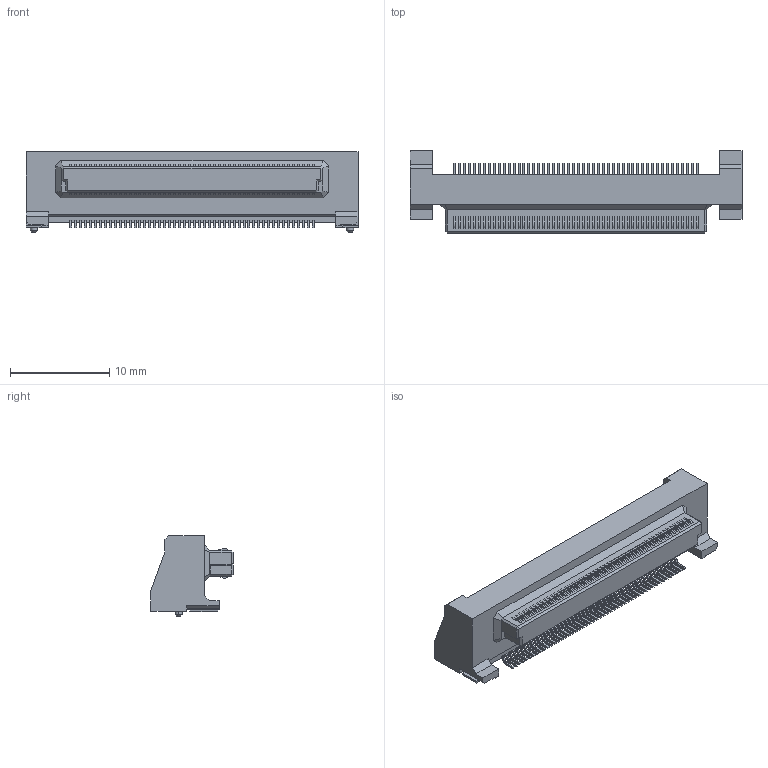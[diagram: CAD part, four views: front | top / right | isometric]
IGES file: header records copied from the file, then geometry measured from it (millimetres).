
Start section: Elysium IGES Interface
Global section: file name: C:\Users\1354\Desktop\DY11-100L.igs; native system: Creo Elements/Direct Modeling 19.0F  14-Feb-2017; preprocessor: Creo Element/Direct IGES_3D V2.2; author: Unknown; organization: Unknown; date: 20171130.155300; units: millimetre
Bounding box: 33.5 x 8.3 x 8.15 mm (x, y, z)
Volume: 979.9 mm3; surface area: 1173.1 mm2
Topology: 1 solids, 1 shells, 1657 faces, 4522 edges, 2972 vertices
Faces by surface type: bspline 1657
